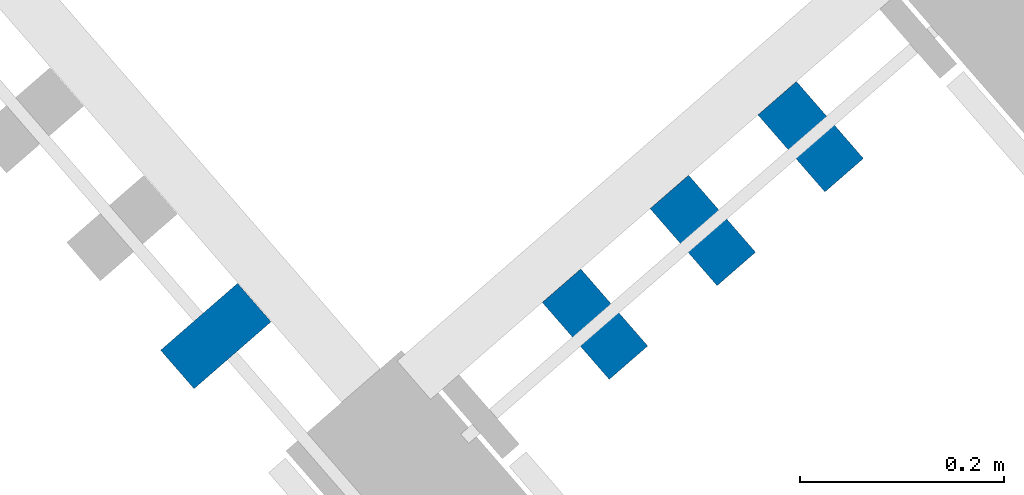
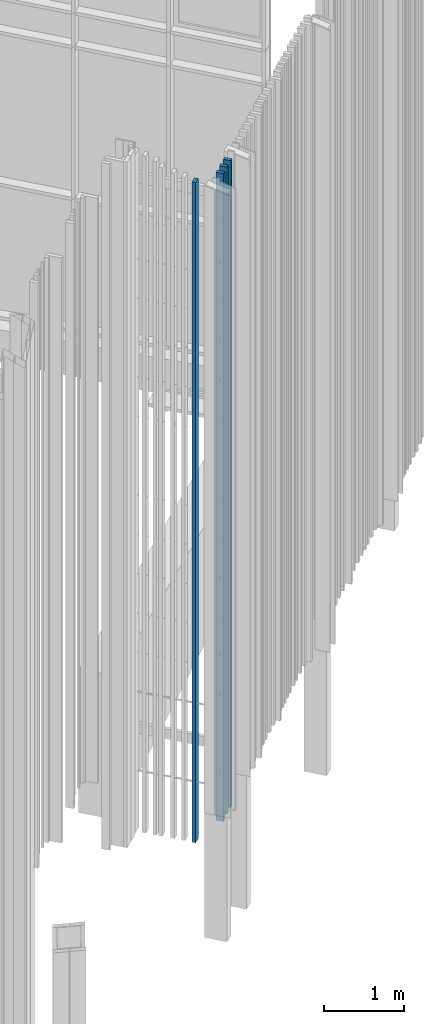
# One storey, part 270 of 390: 4 walls.
"""IFC2X3 building model written with IfcOpenShell, lengths in millimetres."""

from ifc_helpers import new_model, entity, si_unit, converted_unit, derived_unit, money_unit, direction, frame, origin_with_axes, place, context, subcontext, project, spatial, faceted_brep, material, type_object, element, save


model = new_model("IFC2X3")

# Units and contexts
model_context = context("Model", 3, precision=1e-05, world=origin_with_axes(), true_north=direction((0.0, 1.0)))
body_context = subcontext(model_context, "Body", "Model", "MODEL_VIEW")
ifc_project = project(units=[si_unit("LENGTHUNIT", "METRE", prefix="MILLI"), si_unit("AREAUNIT", "SQUARE_METRE"), si_unit("VOLUMEUNIT", "CUBIC_METRE"), converted_unit("PLANEANGLEUNIT", "DEGREE", entity("IfcPlaneAngleMeasure", 0.0174532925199), si_unit("PLANEANGLEUNIT", "RADIAN"), dimensions=[0, 0, 0, 0, 0, 0, 0]), si_unit("SOLIDANGLEUNIT", "STERADIAN"), money_unit("EUR"), converted_unit("TIMEUNIT", "Year", entity("IfcTimeMeasure", 31556926.0), si_unit("TIMEUNIT", "SECOND"), dimensions=[0, 0, 1, 0, 0, 0, 0]), si_unit("MASSUNIT", "GRAM", prefix="KILO"), si_unit("THERMODYNAMICTEMPERATUREUNIT", "DEGREE_CELSIUS"), si_unit("LUMINOUSINTENSITYUNIT", "LUMEN"), si_unit("ENERGYUNIT", "JOULE", prefix="MEGA"), derived_unit("THERMALCONDUCTANCEUNIT", [(si_unit("POWERUNIT", "WATT"), 1), (si_unit("LENGTHUNIT", "METRE"), -1), (si_unit("THERMODYNAMICTEMPERATUREUNIT", "KELVIN"), -1)]), derived_unit("SPECIFICHEATCAPACITYUNIT", [(si_unit("ENERGYUNIT", "JOULE"), 1), (si_unit("MASSUNIT", "GRAM", prefix="KILO"), -1), (si_unit("THERMODYNAMICTEMPERATUREUNIT", "KELVIN"), -1)]), derived_unit("MASSDENSITYUNIT", [(si_unit("MASSUNIT", "GRAM", prefix="KILO"), 1), (si_unit("VOLUMEUNIT", "CUBIC_METRE"), -1)])], contexts=[model_context])

# Site, building, storey
site_placement = place(None, origin_with_axes())
site = spatial("IfcSite", under=ifc_project, at=site_placement, Name="Site", CompositionType="ELEMENT")
building_placement = place(site_placement, origin_with_axes())
building = spatial("IfcBuilding", under=site, at=building_placement, Name="Building", CompositionType="ELEMENT")
storey_placement = place(building_placement, origin_with_axes())
storey = spatial("IfcBuildingStorey", under=building, at=storey_placement, Name="1 korrus", CompositionType="ELEMENT", Elevation=0.0)

# Walls
ifc_material = material(Name="GENEERILINE - VÄLINE VOODER")
wall_type = type_object("IfcWallType", Name="Puitfassaadi ribistik", PredefinedType="NOTDEFINED")
wall_1_placement = place(storey_placement, frame((173589.566451, 93842.9717118, -403.738135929), z_axis=(0.0, 0.0, 1.0), x_axis=(-0.754709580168, -0.656059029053, 0.0)))
element("IfcWall", 1, at=wall_1_placement, inside=storey, type_object=wall_type, material=ifc_material, Name="GENEERILINE - VÄLINE VOODER", context=body_context, shape_type="Brep", body=[
    faceted_brep([(24.9999999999, 49.9999999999, 9890.5531397), (25.0, -49.9999999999, 9890.5531397), (25.0, -49.9999999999, 0.0), (24.9999999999, 49.9999999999, 0.0), (25.0, 6.98739684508, 717.738135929), (25.0, -5.01260315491, 717.738135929), (25.0, -5.01260315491, 729.738135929), (25.0, 6.98739684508, 729.738135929), (25.0, 6.98739684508, 1917.73813593), (25.0, -5.01260315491, 1917.73813593), (25.0, -5.01260315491, 1929.73813593), (25.0, 6.98739684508, 1929.73813593), (25.0, 6.98739684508, 2517.73813593), (25.0, -5.01260315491, 2517.73813593), (25.0, -5.01260315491, 2529.73813593), (25.0, 6.98739684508, 2529.73813593), (25.0, 6.98739684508, 3117.73813593), (25.0, -5.01260315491, 3117.73813593), (25.0, -5.01260315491, 3129.73813593), (25.0, 6.98739684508, 3129.73813593), (25.0, 6.98739684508, 3717.73813593), (25.0, -5.01260315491, 3717.73813593), (25.0, -5.01260315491, 3729.73813593), (25.0, 6.98739684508, 3729.73813593), (25.0, 6.98739684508, 4317.73813593), (25.0, -5.01260315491, 4317.73813593), (25.0, -5.01260315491, 4329.73813593), (25.0, 6.98739684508, 4329.73813593), (25.0, 6.98739684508, 4917.73813593), (25.0, -5.01260315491, 4917.73813593), (25.0, -5.01260315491, 4929.73813593), (25.0, 6.98739684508, 4929.73813593), (25.0, 6.98739684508, 6117.73813593), (25.0, -5.01260315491, 6117.73813593), (25.0, -5.01260315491, 6129.73813593), (25.0, 6.98739684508, 6129.73813593), (25.0, 6.98739684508, 6717.73813593), (25.0, -5.01260315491, 6717.73813593), (25.0, -5.01260315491, 6729.73813593), (25.0, 6.98739684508, 6729.73813593), (25.0, 6.98739684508, 7317.73813593), (25.0, -5.01260315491, 7317.73813593), (25.0, -5.01260315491, 7329.73813593), (25.0, 6.98739684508, 7329.73813593), (25.0, 6.98739684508, 7917.73813593), (25.0, -5.01260315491, 7917.73813593), (25.0, -5.01260315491, 7929.73813593), (25.0, 6.98739684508, 7929.73813593), (25.0, 6.98739684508, 8517.73813593), (25.0, -5.01260315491, 8517.73813593), (25.0, -5.01260315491, 8529.73813593), (25.0, 6.98739684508, 8529.73813593), (25.0, 6.98739684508, 9117.73813593), (25.0, -5.01260315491, 9117.73813593), (25.0, -5.01260315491, 9129.73813593), (25.0, 6.98739684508, 9129.73813593), (-25.0, 49.9999999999, 9890.5531397), (-25.0, -49.9999999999, 9890.5531397), (-25.0, -49.9999999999, 0.0), (-25.0, 49.9999999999, 0.0), (-25.0, 6.9874207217, 717.738135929), (-25.0, -5.01257927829, 717.738135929), (-25.0, -5.01257927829, 729.738135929), (-25.0, 6.9874207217, 729.738135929), (-25.0, 6.9874207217, 1917.73813593), (-25.0, -5.01257927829, 1917.73813593), (-25.0, -5.01257927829, 1929.73813593), (-25.0, 6.9874207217, 1929.73813593), (-25.0, 6.9874207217, 2517.73813593), (-25.0, -5.01257927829, 2517.73813593), (-25.0, -5.01257927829, 2529.73813593), (-25.0, 6.9874207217, 2529.73813593), (-25.0, 6.9874207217, 3117.73813593), (-25.0, -5.01257927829, 3117.73813593), (-25.0, -5.01257927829, 3129.73813593), (-25.0, 6.9874207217, 3129.73813593), (-25.0, 6.9874207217, 3717.73813593), (-25.0, -5.01257927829, 3717.73813593), (-25.0, -5.01257927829, 3729.73813593), (-25.0, 6.9874207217, 3729.73813593), (-25.0, 6.9874207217, 4317.73813593), (-25.0, -5.01257927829, 4317.73813593), (-25.0, -5.01257927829, 4329.73813593), (-25.0, 6.9874207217, 4329.73813593), (-25.0, 6.9874207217, 4917.73813593), (-25.0, -5.01257927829, 4917.73813593), (-25.0, -5.01257927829, 4929.73813593), (-25.0, 6.9874207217, 4929.73813593), (-25.0, 6.9874207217, 6117.73813593), (-25.0, -5.01257927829, 6117.73813593), (-25.0, -5.01257927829, 6129.73813593), (-25.0, 6.9874207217, 6129.73813593), (-25.0, 6.9874207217, 6717.73813593), (-25.0, -5.01257927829, 6717.73813593), (-25.0, -5.01257927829, 6729.73813593), (-25.0, 6.9874207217, 6729.73813593), (-25.0, 6.9874207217, 7317.73813593), (-25.0, -5.01257927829, 7317.73813593), (-25.0, -5.01257927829, 7329.73813593), (-25.0, 6.9874207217, 7329.73813593), (-25.0, 6.9874207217, 7917.73813593), (-25.0, -5.01257927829, 7917.73813593), (-25.0, -5.01257927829, 7929.73813593), (-25.0, 6.9874207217, 7929.73813593), (-25.0, 6.9874207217, 8517.73813593), (-25.0, -5.01257927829, 8517.73813593), (-25.0, -5.01257927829, 8529.73813593), (-25.0, 6.9874207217, 8529.73813593), (-25.0, 6.9874207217, 9117.73813593), (-25.0, -5.01257927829, 9117.73813593), (-25.0, -5.01257927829, 9129.73813593), (-25.0, 6.9874207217, 9129.73813593)], [[[0, 1, 2, 3], [4, 5, 6, 7], [8, 9, 10, 11], [12, 13, 14, 15], [16, 17, 18, 19], [20, 21, 22, 23], [24, 25, 26, 27], [28, 29, 30, 31], [32, 33, 34, 35], [36, 37, 38, 39], [40, 41, 42, 43], [44, 45, 46, 47], [48, 49, 50, 51], [52, 53, 54, 55]], [[0, 56, 57, 1]], [[1, 57, 58, 2]], [[3, 2, 58, 59]], [[56, 0, 3, 59]], [[4, 60, 61, 5]], [[5, 61, 62, 6]], [[6, 62, 63, 7]], [[7, 63, 60, 4]], [[8, 64, 65, 9]], [[9, 65, 66, 10]], [[10, 66, 67, 11]], [[11, 67, 64, 8]], [[12, 68, 69, 13]], [[13, 69, 70, 14]], [[14, 70, 71, 15]], [[15, 71, 68, 12]], [[16, 72, 73, 17]], [[17, 73, 74, 18]], [[18, 74, 75, 19]], [[19, 75, 72, 16]], [[20, 76, 77, 21]], [[21, 77, 78, 22]], [[22, 78, 79, 23]], [[23, 79, 76, 20]], [[24, 80, 81, 25]], [[25, 81, 82, 26]], [[26, 82, 83, 27]], [[27, 83, 80, 24]], [[28, 84, 85, 29]], [[29, 85, 86, 30]], [[30, 86, 87, 31]], [[31, 87, 84, 28]], [[32, 88, 89, 33]], [[33, 89, 90, 34]], [[34, 90, 91, 35]], [[35, 91, 88, 32]], [[36, 92, 93, 37]], [[37, 93, 94, 38]], [[38, 94, 95, 39]], [[39, 95, 92, 36]], [[40, 96, 97, 41]], [[41, 97, 98, 42]], [[42, 98, 99, 43]], [[43, 99, 96, 40]], [[44, 100, 101, 45]], [[45, 101, 102, 46]], [[46, 102, 103, 47]], [[47, 103, 100, 44]], [[48, 104, 105, 49]], [[49, 105, 106, 50]], [[50, 106, 107, 51]], [[51, 107, 104, 48]], [[52, 108, 109, 53]], [[53, 109, 110, 54]], [[54, 110, 111, 55]], [[55, 111, 108, 52]], [[57, 56, 59, 58], [62, 61, 60, 63], [66, 65, 64, 67], [70, 69, 68, 71], [74, 73, 72, 75], [78, 77, 76, 79], [82, 81, 80, 83], [86, 85, 84, 87], [90, 89, 88, 91], [94, 93, 92, 95], [98, 97, 96, 99], [102, 101, 100, 103], [106, 105, 104, 107], [110, 109, 108, 111]]]),
])
wall_2_placement = place(storey_placement, frame((173695.225768, 93934.8197429, -389.192681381), z_axis=(0.0, 0.0, 1.0), x_axis=(-0.754709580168, -0.656059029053, 0.0)))
element("IfcWall", 2, at=wall_2_placement, inside=storey, type_object=wall_type, material=ifc_material, Name="GENEERILINE - VÄLINE VOODER", context=body_context, shape_type="Brep", body=[
    faceted_brep([(25.0, 50.0, 9882.55218785), (25.0, -50.0, 9882.55218785), (25.0, -50.0, 0.0), (25.0, 50.0, 0.0), (25.0, 6.98730396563, 703.192681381), (25.0, -5.01269603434, 703.192681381), (25.0, -5.01269603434, 715.192681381), (25.0, 6.98730396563, 715.192681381), (25.0, 6.98730396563, 1903.19268138), (25.0, -5.01269603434, 1903.19268138), (25.0, -5.01269603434, 1915.19268138), (25.0, 6.98730396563, 1915.19268138), (25.0, 6.98730396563, 2503.19268138), (25.0, -5.01269603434, 2503.19268138), (25.0, -5.01269603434, 2515.19268138), (25.0, 6.98730396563, 2515.19268138), (25.0, 6.98730396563, 3103.19268138), (25.0, -5.01269603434, 3103.19268138), (25.0, -5.01269603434, 3115.19268138), (25.0, 6.98730396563, 3115.19268138), (25.0, 6.98730396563, 3703.19268138), (25.0, -5.01269603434, 3703.19268138), (25.0, -5.01269603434, 3715.19268138), (25.0, 6.98730396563, 3715.19268138), (25.0, 6.98730396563, 4303.19268138), (25.0, -5.01269603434, 4303.19268138), (25.0, -5.01269603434, 4315.19268138), (25.0, 6.98730396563, 4315.19268138), (25.0, 6.98730396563, 4903.19268138), (25.0, -5.01269603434, 4903.19268138), (25.0, -5.01269603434, 4915.19268138), (25.0, 6.98730396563, 4915.19268138), (25.0, 6.98730396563, 6103.19268138), (25.0, -5.01269603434, 6103.19268138), (25.0, -5.01269603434, 6115.19268138), (25.0, 6.98730396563, 6115.19268138), (25.0, 6.98730396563, 6703.19268138), (25.0, -5.01269603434, 6703.19268138), (25.0, -5.01269603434, 6715.19268138), (25.0, 6.98730396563, 6715.19268138), (25.0, 6.98730396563, 7303.19268138), (25.0, -5.01269603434, 7303.19268138), (25.0, -5.01269603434, 7315.19268138), (25.0, 6.98730396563, 7315.19268138), (25.0, 6.98730396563, 7903.19268138), (25.0, -5.01269603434, 7903.19268138), (25.0, -5.01269603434, 7915.19268138), (25.0, 6.98730396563, 7915.19268138), (25.0, 6.98730396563, 8503.19268138), (25.0, -5.01269603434, 8503.19268138), (25.0, -5.01269603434, 8515.19268138), (25.0, 6.98730396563, 8515.19268138), (25.0, 6.98730396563, 9103.19268138), (25.0, -5.01269603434, 9103.19268138), (25.0, -5.01269603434, 9115.19268138), (25.0, 6.98730396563, 9115.19268138), (-25.0, 50.0, 9882.55218785), (-25.0, -50.0, 9882.55218785), (-25.0, -50.0, 0.0), (-25.0, 50.0, 0.0), (-25.0, 6.98732784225, 703.192681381), (-25.0, -5.01267215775, 703.192681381), (-25.0, -5.01267215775, 715.192681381), (-25.0, 6.98732784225, 715.192681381), (-25.0, 6.98732784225, 1903.19268138), (-25.0, -5.01267215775, 1903.19268138), (-25.0, -5.01267215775, 1915.19268138), (-25.0, 6.98732784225, 1915.19268138), (-25.0, 6.98732784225, 2503.19268138), (-25.0, -5.01267215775, 2503.19268138), (-25.0, -5.01267215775, 2515.19268138), (-25.0, 6.98732784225, 2515.19268138), (-25.0, 6.98732784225, 3103.19268138), (-25.0, -5.01267215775, 3103.19268138), (-25.0, -5.01267215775, 3115.19268138), (-25.0, 6.98732784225, 3115.19268138), (-25.0, 6.98732784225, 3703.19268138), (-25.0, -5.01267215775, 3703.19268138), (-25.0, -5.01267215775, 3715.19268138), (-25.0, 6.98732784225, 3715.19268138), (-25.0, 6.98732784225, 4303.19268138), (-25.0, -5.01267215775, 4303.19268138), (-25.0, -5.01267215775, 4315.19268138), (-25.0, 6.98732784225, 4315.19268138), (-25.0, 6.98732784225, 4903.19268138), (-25.0, -5.01267215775, 4903.19268138), (-25.0, -5.01267215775, 4915.19268138), (-25.0, 6.98732784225, 4915.19268138), (-25.0, 6.98732784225, 6103.19268138), (-25.0, -5.01267215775, 6103.19268138), (-25.0, -5.01267215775, 6115.19268138), (-25.0, 6.98732784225, 6115.19268138), (-25.0, 6.98732784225, 6703.19268138), (-25.0, -5.01267215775, 6703.19268138), (-25.0, -5.01267215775, 6715.19268138), (-25.0, 6.98732784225, 6715.19268138), (-25.0, 6.98732784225, 7303.19268138), (-25.0, -5.01267215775, 7303.19268138), (-25.0, -5.01267215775, 7315.19268138), (-25.0, 6.98732784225, 7315.19268138), (-25.0, 6.98732784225, 7903.19268138), (-25.0, -5.01267215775, 7903.19268138), (-25.0, -5.01267215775, 7915.19268138), (-25.0, 6.98732784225, 7915.19268138), (-25.0, 6.98732784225, 8503.19268138), (-25.0, -5.01267215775, 8503.19268138), (-25.0, -5.01267215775, 8515.19268138), (-25.0, 6.98732784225, 8515.19268138), (-25.0, 6.98732784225, 9103.19268138), (-25.0, -5.01267215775, 9103.19268138), (-25.0, -5.01267215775, 9115.19268138), (-25.0, 6.98732784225, 9115.19268138)], [[[0, 1, 2, 3], [4, 5, 6, 7], [8, 9, 10, 11], [12, 13, 14, 15], [16, 17, 18, 19], [20, 21, 22, 23], [24, 25, 26, 27], [28, 29, 30, 31], [32, 33, 34, 35], [36, 37, 38, 39], [40, 41, 42, 43], [44, 45, 46, 47], [48, 49, 50, 51], [52, 53, 54, 55]], [[0, 56, 57, 1]], [[1, 57, 58, 2]], [[3, 2, 58, 59]], [[56, 0, 3, 59]], [[4, 60, 61, 5]], [[5, 61, 62, 6]], [[6, 62, 63, 7]], [[7, 63, 60, 4]], [[8, 64, 65, 9]], [[9, 65, 66, 10]], [[10, 66, 67, 11]], [[11, 67, 64, 8]], [[12, 68, 69, 13]], [[13, 69, 70, 14]], [[14, 70, 71, 15]], [[15, 71, 68, 12]], [[16, 72, 73, 17]], [[17, 73, 74, 18]], [[18, 74, 75, 19]], [[19, 75, 72, 16]], [[20, 76, 77, 21]], [[21, 77, 78, 22]], [[22, 78, 79, 23]], [[23, 79, 76, 20]], [[24, 80, 81, 25]], [[25, 81, 82, 26]], [[26, 82, 83, 27]], [[27, 83, 80, 24]], [[28, 84, 85, 29]], [[29, 85, 86, 30]], [[30, 86, 87, 31]], [[31, 87, 84, 28]], [[32, 88, 89, 33]], [[33, 89, 90, 34]], [[34, 90, 91, 35]], [[35, 91, 88, 32]], [[36, 92, 93, 37]], [[37, 93, 94, 38]], [[38, 94, 95, 39]], [[39, 95, 92, 36]], [[40, 96, 97, 41]], [[41, 97, 98, 42]], [[42, 98, 99, 43]], [[43, 99, 96, 40]], [[44, 100, 101, 45]], [[45, 101, 102, 46]], [[46, 102, 103, 47]], [[47, 103, 100, 44]], [[48, 104, 105, 49]], [[49, 105, 106, 50]], [[50, 106, 107, 51]], [[51, 107, 104, 48]], [[52, 108, 109, 53]], [[53, 109, 110, 54]], [[54, 110, 111, 55]], [[55, 111, 108, 52]], [[57, 56, 59, 58], [62, 61, 60, 63], [66, 65, 64, 67], [70, 69, 68, 71], [74, 73, 72, 75], [78, 77, 76, 79], [82, 81, 80, 83], [86, 85, 84, 87], [90, 89, 88, 91], [94, 93, 92, 95], [98, 97, 96, 99], [102, 101, 100, 103], [106, 105, 104, 107], [110, 109, 108, 111]]]),
])
wall_3_placement = place(storey_placement, frame((173800.884858, 94026.668318, -379.495711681), z_axis=(0.0, 0.0, 1.0), x_axis=(-0.754709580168, -0.656059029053, 0.0)))
element("IfcWall", 3, at=wall_3_placement, inside=storey, type_object=wall_type, material=ifc_material, Name="GENEERILINE - VÄLINE VOODER", context=body_context, shape_type="Brep", body=[
    faceted_brep([(25.0, 50.0, 9877.21821995), (25.0, -50.0, 9877.21821995), (25.0, -50.0, 0.0), (25.0, 50.0, 0.0), (25.0, 6.98777016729, 693.495711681), (25.0, -5.01222983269, 693.495711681), (25.0, -5.01222983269, 705.495711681), (25.0, 6.98777016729, 705.495711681), (25.0, 6.98777016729, 1893.49571168), (25.0, -5.01222983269, 1893.49571168), (25.0, -5.01222983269, 1905.49571168), (25.0, 6.98777016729, 1905.49571168), (25.0, 6.98777016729, 2493.49571168), (25.0, -5.01222983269, 2493.49571168), (25.0, -5.01222983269, 2505.49571168), (25.0, 6.98777016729, 2505.49571168), (25.0, 6.98777016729, 3093.49571168), (25.0, -5.01222983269, 3093.49571168), (25.0, -5.01222983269, 3105.49571168), (25.0, 6.98777016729, 3105.49571168), (25.0, 6.98777016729, 3693.49571168), (25.0, -5.01222983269, 3693.49571168), (25.0, -5.01222983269, 3705.49571168), (25.0, 6.98777016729, 3705.49571168), (25.0, 6.98777016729, 4293.49571168), (25.0, -5.01222983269, 4293.49571168), (25.0, -5.01222983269, 4305.49571168), (25.0, 6.98777016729, 4305.49571168), (25.0, 6.98777016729, 4893.49571168), (25.0, -5.01222983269, 4893.49571168), (25.0, -5.01222983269, 4905.49571168), (25.0, 6.98777016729, 4905.49571168), (25.0, 6.98777016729, 6093.49571168), (25.0, -5.01222983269, 6093.49571168), (25.0, -5.01222983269, 6105.49571168), (25.0, 6.98777016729, 6105.49571168), (25.0, 6.98777016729, 6693.49571168), (25.0, -5.01222983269, 6693.49571168), (25.0, -5.01222983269, 6705.49571168), (25.0, 6.98777016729, 6705.49571168), (25.0, 6.98777016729, 7293.49571168), (25.0, -5.01222983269, 7293.49571168), (25.0, -5.01222983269, 7305.49571168), (25.0, 6.98777016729, 7305.49571168), (25.0, 6.98777016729, 7893.49571168), (25.0, -5.01222983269, 7893.49571168), (25.0, -5.01222983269, 7905.49571168), (25.0, 6.98777016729, 7905.49571168), (25.0, 6.98777016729, 8493.49571168), (25.0, -5.01222983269, 8493.49571168), (25.0, -5.01222983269, 8505.49571168), (25.0, 6.98777016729, 8505.49571168), (25.0, 6.98777016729, 9093.49571168), (25.0, -5.01222983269, 9093.49571168), (25.0, -5.01222983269, 9105.49571168), (25.0, 6.98777016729, 9105.49571168), (-25.0, 50.0, 9877.21821995), (-25.0, -50.0, 9877.21821995), (-25.0, -50.0, 0.0), (-25.0, 50.0, 0.0), (-25.0, 6.98779404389, 693.495711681), (-25.0, -5.01220595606, 693.495711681), (-25.0, -5.01220595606, 705.495711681), (-25.0, 6.98779404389, 705.495711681), (-25.0, 6.98779404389, 1893.49571168), (-25.0, -5.01220595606, 1893.49571168), (-25.0, -5.01220595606, 1905.49571168), (-25.0, 6.98779404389, 1905.49571168), (-25.0, 6.98779404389, 2493.49571168), (-25.0, -5.01220595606, 2493.49571168), (-25.0, -5.01220595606, 2505.49571168), (-25.0, 6.98779404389, 2505.49571168), (-25.0, 6.98779404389, 3093.49571168), (-25.0, -5.01220595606, 3093.49571168), (-25.0, -5.01220595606, 3105.49571168), (-25.0, 6.98779404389, 3105.49571168), (-25.0, 6.98779404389, 3693.49571168), (-25.0, -5.01220595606, 3693.49571168), (-25.0, -5.01220595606, 3705.49571168), (-25.0, 6.98779404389, 3705.49571168), (-25.0, 6.98779404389, 4293.49571168), (-25.0, -5.01220595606, 4293.49571168), (-25.0, -5.01220595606, 4305.49571168), (-25.0, 6.98779404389, 4305.49571168), (-25.0, 6.98779404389, 4893.49571168), (-25.0, -5.01220595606, 4893.49571168), (-25.0, -5.01220595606, 4905.49571168), (-25.0, 6.98779404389, 4905.49571168), (-25.0, 6.98779404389, 6093.49571168), (-25.0, -5.01220595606, 6093.49571168), (-25.0, -5.01220595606, 6105.49571168), (-25.0, 6.98779404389, 6105.49571168), (-25.0, 6.98779404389, 6693.49571168), (-25.0, -5.01220595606, 6693.49571168), (-25.0, -5.01220595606, 6705.49571168), (-25.0, 6.98779404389, 6705.49571168), (-25.0, 6.98779404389, 7293.49571168), (-25.0, -5.01220595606, 7293.49571168), (-25.0, -5.01220595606, 7305.49571168), (-25.0, 6.98779404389, 7305.49571168), (-25.0, 6.98779404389, 7893.49571168), (-25.0, -5.01220595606, 7893.49571168), (-25.0, -5.01220595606, 7905.49571168), (-25.0, 6.98779404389, 7905.49571168), (-25.0, 6.98779404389, 8493.49571168), (-25.0, -5.01220595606, 8493.49571168), (-25.0, -5.01220595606, 8505.49571168), (-25.0, 6.98779404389, 8505.49571168), (-25.0, 6.98779404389, 9093.49571168), (-25.0, -5.01220595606, 9093.49571168), (-25.0, -5.01220595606, 9105.49571168), (-25.0, 6.98779404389, 9105.49571168)], [[[0, 1, 2, 3], [4, 5, 6, 7], [8, 9, 10, 11], [12, 13, 14, 15], [16, 17, 18, 19], [20, 21, 22, 23], [24, 25, 26, 27], [28, 29, 30, 31], [32, 33, 34, 35], [36, 37, 38, 39], [40, 41, 42, 43], [44, 45, 46, 47], [48, 49, 50, 51], [52, 53, 54, 55]], [[0, 56, 57, 1]], [[1, 57, 58, 2]], [[3, 2, 58, 59]], [[56, 0, 3, 59]], [[4, 60, 61, 5]], [[5, 61, 62, 6]], [[6, 62, 63, 7]], [[7, 63, 60, 4]], [[8, 64, 65, 9]], [[9, 65, 66, 10]], [[10, 66, 67, 11]], [[11, 67, 64, 8]], [[12, 68, 69, 13]], [[13, 69, 70, 14]], [[14, 70, 71, 15]], [[15, 71, 68, 12]], [[16, 72, 73, 17]], [[17, 73, 74, 18]], [[18, 74, 75, 19]], [[19, 75, 72, 16]], [[20, 76, 77, 21]], [[21, 77, 78, 22]], [[22, 78, 79, 23]], [[23, 79, 76, 20]], [[24, 80, 81, 25]], [[25, 81, 82, 26]], [[26, 82, 83, 27]], [[27, 83, 80, 24]], [[28, 84, 85, 29]], [[29, 85, 86, 30]], [[30, 86, 87, 31]], [[31, 87, 84, 28]], [[32, 88, 89, 33]], [[33, 89, 90, 34]], [[34, 90, 91, 35]], [[35, 91, 88, 32]], [[36, 92, 93, 37]], [[37, 93, 94, 38]], [[38, 94, 95, 39]], [[39, 95, 92, 36]], [[40, 96, 97, 41]], [[41, 97, 98, 42]], [[42, 98, 99, 43]], [[43, 99, 96, 40]], [[44, 100, 101, 45]], [[45, 101, 102, 46]], [[46, 102, 103, 47]], [[47, 103, 100, 44]], [[48, 104, 105, 49]], [[49, 105, 106, 50]], [[50, 106, 107, 51]], [[51, 107, 104, 48]], [[52, 108, 109, 53]], [[53, 109, 110, 54]], [[54, 110, 111, 55]], [[55, 111, 108, 52]], [[57, 56, 59, 58], [62, 61, 60, 63], [66, 65, 64, 67], [70, 69, 68, 71], [74, 73, 72, 75], [78, 77, 76, 79], [82, 81, 80, 83], [86, 85, 84, 87], [90, 89, 88, 91], [94, 93, 92, 95], [98, 97, 96, 99], [102, 101, 100, 103], [106, 105, 104, 107], [110, 109, 108, 111]]]),
])
wall_4_placement = place(storey_placement, frame((173218.029535, 93831.3909302, -578.61886405), z_axis=(0.0, 0.0, 1.0), x_axis=(-0.656059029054, 0.754709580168, 0.0)))
element("IfcWall", 4, at=wall_4_placement, inside=storey, type_object=wall_type, material=ifc_material, Name="GENEERILINE - VÄLINE VOODER", context=body_context, shape_type="Brep", body=[
    faceted_brep([(25.0, 50.0, 10075.0526303), (25.0, -50.0, 10075.0526303), (25.0, -50.0, 0.0), (25.0, 50.0, 0.0), (25.0, 6.75627106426, 904.61886405), (25.0, 6.75627106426, 892.61886405), (25.0, -5.24372893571, 892.61886405), (25.0, -5.24372893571, 904.61886405), (25.0, 6.75627106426, 2104.61886405), (25.0, 6.75627106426, 2092.61886405), (25.0, -5.24372893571, 2092.61886405), (25.0, -5.24372893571, 2104.61886405), (25.0, 6.75627106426, 2704.61886405), (25.0, 6.75627106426, 2692.61886405), (25.0, -5.24372893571, 2692.61886405), (25.0, -5.24372893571, 2704.61886405), (25.0, 6.75627106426, 3304.61886405), (25.0, 6.75627106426, 3292.61886405), (25.0, -5.24372893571, 3292.61886405), (25.0, -5.24372893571, 3304.61886405), (25.0, 6.75627106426, 3904.61886405), (25.0, 6.75627106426, 3892.61886405), (25.0, -5.24372893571, 3892.61886405), (25.0, -5.24372893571, 3904.61886405), (25.0, 6.75627106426, 4504.61886405), (25.0, 6.75627106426, 4492.61886405), (25.0, -5.24372893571, 4492.61886405), (25.0, -5.24372893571, 4504.61886405), (25.0, 6.75627106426, 5104.61886405), (25.0, 6.75627106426, 5092.61886405), (25.0, -5.24372893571, 5092.61886405), (25.0, -5.24372893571, 5104.61886405), (25.0, 6.75627106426, 6304.61886405), (25.0, 6.75627106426, 6292.61886405), (25.0, -5.24372893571, 6292.61886405), (25.0, -5.24372893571, 6304.61886405), (25.0, 6.75627106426, 6904.61886405), (25.0, 6.75627106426, 6892.61886405), (25.0, -5.24372893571, 6892.61886405), (25.0, -5.24372893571, 6904.61886405), (25.0, 6.75627106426, 7504.61886405), (25.0, 6.75627106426, 7492.61886405), (25.0, -5.24372893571, 7492.61886405), (25.0, -5.24372893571, 7504.61886405), (25.0, 6.75627106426, 8104.61886405), (25.0, 6.75627106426, 8092.61886405), (25.0, -5.24372893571, 8092.61886405), (25.0, -5.24372893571, 8104.61886405), (25.0, 6.75627106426, 8704.61886405), (25.0, 6.75627106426, 8692.61886405), (25.0, -5.24372893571, 8692.61886405), (25.0, -5.24372893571, 8704.61886405), (25.0, 6.75627106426, 9304.61886405), (25.0, 6.75627106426, 9292.61886405), (25.0, -5.24372893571, 9292.61886405), (25.0, -5.24372893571, 9304.61886405), (-25.0, 50.0, 10075.0526303), (-25.0, -50.0, 10075.0526303), (-25.0, -50.0, 0.0), (-25.0, 50.0, 0.0), (-25.0, 6.75629494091, 904.61886405), (-25.0, 6.75629494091, 892.61886405), (-25.0, -5.24370505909, 892.61886405), (-25.0, -5.24370505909, 904.61886405), (-25.0, 6.75629494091, 2104.61886405), (-25.0, 6.75629494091, 2092.61886405), (-25.0, -5.24370505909, 2092.61886405), (-25.0, -5.24370505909, 2104.61886405), (-25.0, 6.75629494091, 2704.61886405), (-25.0, 6.75629494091, 2692.61886405), (-25.0, -5.24370505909, 2692.61886405), (-25.0, -5.24370505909, 2704.61886405), (-25.0, 6.75629494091, 3304.61886405), (-25.0, 6.75629494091, 3292.61886405), (-25.0, -5.24370505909, 3292.61886405), (-25.0, -5.24370505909, 3304.61886405), (-25.0, 6.75629494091, 3904.61886405), (-25.0, 6.75629494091, 3892.61886405), (-25.0, -5.24370505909, 3892.61886405), (-25.0, -5.24370505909, 3904.61886405), (-25.0, 6.75629494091, 4504.61886405), (-25.0, 6.75629494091, 4492.61886405), (-25.0, -5.24370505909, 4492.61886405), (-25.0, -5.24370505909, 4504.61886405), (-25.0, 6.75629494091, 5104.61886405), (-25.0, 6.75629494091, 5092.61886405), (-25.0, -5.24370505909, 5092.61886405), (-25.0, -5.24370505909, 5104.61886405), (-25.0, 6.75629494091, 6304.61886405), (-25.0, 6.75629494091, 6292.61886405), (-25.0, -5.24370505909, 6292.61886405), (-25.0, -5.24370505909, 6304.61886405), (-25.0, 6.75629494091, 6904.61886405), (-25.0, 6.75629494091, 6892.61886405), (-25.0, -5.24370505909, 6892.61886405), (-25.0, -5.24370505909, 6904.61886405), (-25.0, 6.75629494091, 7504.61886405), (-25.0, 6.75629494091, 7492.61886405), (-25.0, -5.24370505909, 7492.61886405), (-25.0, -5.24370505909, 7504.61886405), (-25.0, 6.75629494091, 8104.61886405), (-25.0, 6.75629494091, 8092.61886405), (-25.0, -5.24370505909, 8092.61886405), (-25.0, -5.24370505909, 8104.61886405), (-25.0, 6.75629494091, 8704.61886405), (-25.0, 6.75629494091, 8692.61886405), (-25.0, -5.24370505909, 8692.61886405), (-25.0, -5.24370505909, 8704.61886405), (-25.0, 6.75629494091, 9304.61886405), (-25.0, 6.75629494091, 9292.61886405), (-25.0, -5.24370505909, 9292.61886405), (-25.0, -5.24370505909, 9304.61886405)], [[[0, 1, 2, 3], [4, 5, 6, 7], [8, 9, 10, 11], [12, 13, 14, 15], [16, 17, 18, 19], [20, 21, 22, 23], [24, 25, 26, 27], [28, 29, 30, 31], [32, 33, 34, 35], [36, 37, 38, 39], [40, 41, 42, 43], [44, 45, 46, 47], [48, 49, 50, 51], [52, 53, 54, 55]], [[0, 56, 57, 1]], [[1, 57, 58, 2]], [[3, 2, 58, 59]], [[56, 0, 3, 59]], [[4, 60, 61, 5]], [[5, 61, 62, 6]], [[6, 62, 63, 7]], [[7, 63, 60, 4]], [[8, 64, 65, 9]], [[9, 65, 66, 10]], [[10, 66, 67, 11]], [[11, 67, 64, 8]], [[12, 68, 69, 13]], [[13, 69, 70, 14]], [[14, 70, 71, 15]], [[15, 71, 68, 12]], [[16, 72, 73, 17]], [[17, 73, 74, 18]], [[18, 74, 75, 19]], [[19, 75, 72, 16]], [[20, 76, 77, 21]], [[21, 77, 78, 22]], [[22, 78, 79, 23]], [[23, 79, 76, 20]], [[24, 80, 81, 25]], [[25, 81, 82, 26]], [[26, 82, 83, 27]], [[27, 83, 80, 24]], [[28, 84, 85, 29]], [[29, 85, 86, 30]], [[30, 86, 87, 31]], [[31, 87, 84, 28]], [[32, 88, 89, 33]], [[33, 89, 90, 34]], [[34, 90, 91, 35]], [[35, 91, 88, 32]], [[36, 92, 93, 37]], [[37, 93, 94, 38]], [[38, 94, 95, 39]], [[39, 95, 92, 36]], [[40, 96, 97, 41]], [[41, 97, 98, 42]], [[42, 98, 99, 43]], [[43, 99, 96, 40]], [[44, 100, 101, 45]], [[45, 101, 102, 46]], [[46, 102, 103, 47]], [[47, 103, 100, 44]], [[48, 104, 105, 49]], [[49, 105, 106, 50]], [[50, 106, 107, 51]], [[51, 107, 104, 48]], [[52, 108, 109, 53]], [[53, 109, 110, 54]], [[54, 110, 111, 55]], [[55, 111, 108, 52]], [[57, 56, 59, 58], [62, 61, 60, 63], [66, 65, 64, 67], [70, 69, 68, 71], [74, 73, 72, 75], [78, 77, 76, 79], [82, 81, 80, 83], [86, 85, 84, 87], [90, 89, 88, 91], [94, 93, 92, 95], [98, 97, 96, 99], [102, 101, 100, 103], [106, 105, 104, 107], [110, 109, 108, 111]]]),
])

save(model, "model.ifc")
